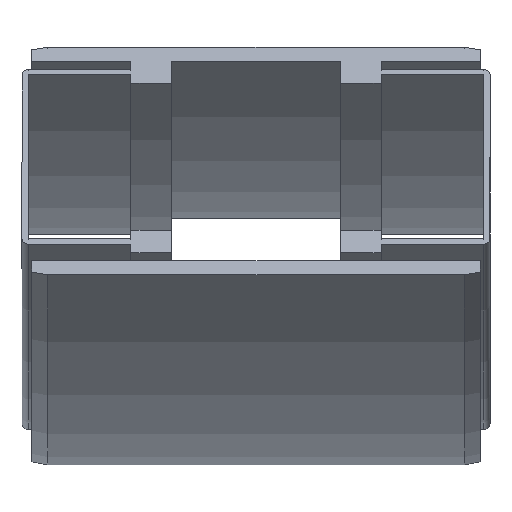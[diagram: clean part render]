
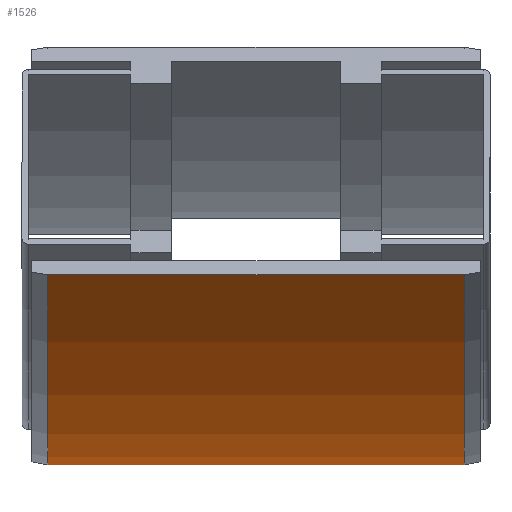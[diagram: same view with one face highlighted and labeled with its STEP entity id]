
A CAD part, left-side view. The second image highlights one B-rep face of the part: STEP entity #1526.
In plain terms, the highlighted cylindrical face has radius 442.5 mm (diameter 885 mm), a partial arc.
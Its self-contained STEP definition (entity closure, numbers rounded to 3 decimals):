
#80=CYLINDRICAL_SURFACE('',#1643,442.5);
#149=FACE_OUTER_BOUND('',#236,.T.);
#236=EDGE_LOOP('',(#1052,#1053,#1054,#1055));
#323=CIRCLE('',#1633,442.5);
#328=CIRCLE('',#1642,442.5);
#400=LINE('',#2215,#526);
#401=LINE('',#2216,#527);
#526=VECTOR('',#1808,10.);
#527=VECTOR('',#1809,10.);
#643=VERTEX_POINT('',#2183);
#644=VERTEX_POINT('',#2185);
#652=VERTEX_POINT('',#2209);
#653=VERTEX_POINT('',#2211);
#799=EDGE_CURVE('',#643,#644,#323,.T.);
#813=EDGE_CURVE('',#652,#653,#328,.T.);
#814=EDGE_CURVE('',#643,#652,#400,.T.);
#815=EDGE_CURVE('',#644,#653,#401,.T.);
#1052=ORIENTED_EDGE('',*,*,#814,.T.);
#1053=ORIENTED_EDGE('',*,*,#813,.T.);
#1054=ORIENTED_EDGE('',*,*,#815,.F.);
#1055=ORIENTED_EDGE('',*,*,#799,.F.);
#1526=ADVANCED_FACE('',(#149),#80,.T.);
#1633=AXIS2_PLACEMENT_3D('',#2186,#1777,#1778);
#1642=AXIS2_PLACEMENT_3D('',#2213,#1804,#1805);
#1643=AXIS2_PLACEMENT_3D('',#2214,#1806,#1807);
#1777=DIRECTION('center_axis',(0.,1.,0.));
#1778=DIRECTION('ref_axis',(0.,0.,-1.));
#1804=DIRECTION('center_axis',(0.,1.,0.));
#1805=DIRECTION('ref_axis',(0.,0.,-1.));
#1806=DIRECTION('center_axis',(0.,1.,0.));
#1807=DIRECTION('ref_axis',(0.,0.,-1.));
#1808=DIRECTION('',(0.,-1.,0.));
#1809=DIRECTION('',(0.,-1.,0.));
#2183=CARTESIAN_POINT('',(0.,65.,-42.5));
#2185=CARTESIAN_POINT('',(-221.25,65.,16.784));
#2186=CARTESIAN_POINT('Origin',(0.,65.,400.));
#2209=CARTESIAN_POINT('',(0.,-65.,-42.5));
#2211=CARTESIAN_POINT('',(-221.25,-65.,16.784));
#2213=CARTESIAN_POINT('Origin',(0.,-65.,400.));
#2214=CARTESIAN_POINT('Origin',(0.,0.,400.));
#2215=CARTESIAN_POINT('',(0.,65.,-42.5));
#2216=CARTESIAN_POINT('',(-221.25,65.,16.784));
